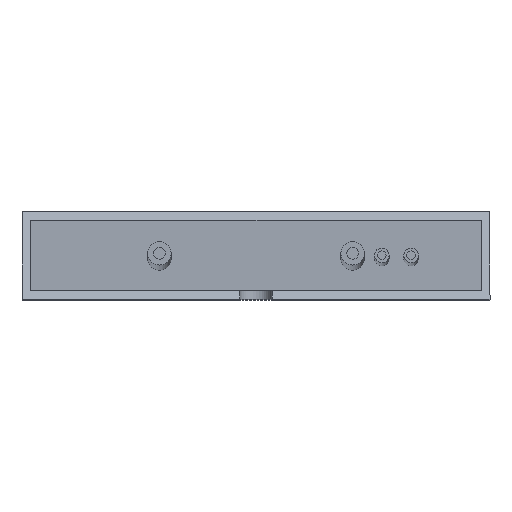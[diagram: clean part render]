
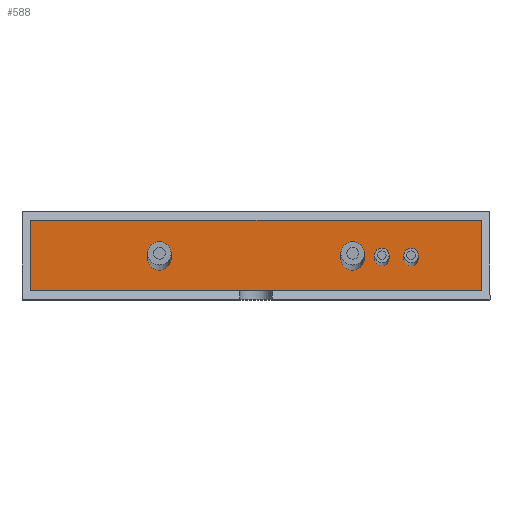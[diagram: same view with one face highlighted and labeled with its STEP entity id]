
A CAD part, top view. The second image highlights one B-rep face of the part: STEP entity #588.
In plain terms, the highlighted planar face has unit normal (0, 0, 1).
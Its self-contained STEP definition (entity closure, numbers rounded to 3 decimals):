
#16=LINE($,#891,#66);
#17=LINE($,#893,#67);
#18=LINE($,#895,#68);
#19=LINE($,#896,#69);
#66=VECTOR($,#740,77.);
#67=VECTOR($,#741,12.);
#68=VECTOR($,#742,77.);
#69=VECTOR($,#743,12.);
#121=PLANE($,#643);
#154=FACE_BOUND($,#219,.T.);
#155=FACE_BOUND($,#220,.T.);
#156=FACE_BOUND($,#221,.T.);
#157=FACE_BOUND($,#222,.T.);
#158=FACE_BOUND($,#223,.T.);
#219=EDGE_LOOP($,(#416));
#220=EDGE_LOOP($,(#417));
#221=EDGE_LOOP($,(#418));
#222=EDGE_LOOP($,(#419));
#223=EDGE_LOOP($,(#420,#421,#422,#423));
#245=CIRCLE($,#616,1.25);
#249=CIRCLE($,#624,1.25);
#253=CIRCLE($,#632,2.);
#257=CIRCLE($,#640,2.);
#265=VERTEX_POINT($,#840);
#269=VERTEX_POINT($,#852);
#273=VERTEX_POINT($,#864);
#277=VERTEX_POINT($,#876);
#282=VERTEX_POINT($,#889);
#283=VERTEX_POINT($,#890);
#284=VERTEX_POINT($,#892);
#285=VERTEX_POINT($,#894);
#317=EDGE_CURVE($,#265,#265,#245,.T.);
#321=EDGE_CURVE($,#269,#269,#249,.T.);
#325=EDGE_CURVE($,#273,#273,#253,.T.);
#329=EDGE_CURVE($,#277,#277,#257,.T.);
#334=EDGE_CURVE($,#282,#283,#16,.T.);
#335=EDGE_CURVE($,#284,#282,#17,.T.);
#336=EDGE_CURVE($,#285,#284,#18,.T.);
#337=EDGE_CURVE($,#283,#285,#19,.T.);
#416=ORIENTED_EDGE($,*,*,#317,.T.);
#417=ORIENTED_EDGE($,*,*,#321,.T.);
#418=ORIENTED_EDGE($,*,*,#325,.T.);
#419=ORIENTED_EDGE($,*,*,#329,.T.);
#420=ORIENTED_EDGE($,*,*,#334,.F.);
#421=ORIENTED_EDGE($,*,*,#335,.F.);
#422=ORIENTED_EDGE($,*,*,#336,.F.);
#423=ORIENTED_EDGE($,*,*,#337,.F.);
#588=ADVANCED_FACE($,(#154,#155,#156,#157,#158),#121,.T.);
#616=AXIS2_PLACEMENT_3D($,#841,#680,#681);
#624=AXIS2_PLACEMENT_3D($,#853,#696,#697);
#632=AXIS2_PLACEMENT_3D($,#865,#712,#713);
#640=AXIS2_PLACEMENT_3D($,#877,#728,#729);
#643=AXIS2_PLACEMENT_3D($,#888,#738,#739);
#680=DIRECTION('center_axis',(0.,0.,
-1.));
#681=DIRECTION('ref_axis',(-1.,0.,0.));
#696=DIRECTION('center_axis',(0.,0.,
-1.));
#697=DIRECTION('ref_axis',(-1.,0.,0.));
#712=DIRECTION('center_axis',(0.,0.,
-1.));
#713=DIRECTION('ref_axis',(-1.,0.,0.));
#728=DIRECTION('center_axis',(0.,0.,
-1.));
#729=DIRECTION('ref_axis',(-1.,0.,0.));
#738=DIRECTION('center_axis',(0.,0.,
1.));
#739=DIRECTION('ref_axis',(1.,0.,0.));
#740=DIRECTION($,(1.,0.,0.));
#741=DIRECTION($,(0.,1.,0.));
#742=DIRECTION($,(-1.,0.,0.));
#743=DIRECTION($,(0.,-1.,0.));
#840=CARTESIAN_POINT('',(29.172,3.909,70.773));
#841=CARTESIAN_POINT('Origin',(27.922,3.909,70.773));
#852=CARTESIAN_POINT('',(34.172,3.909,70.773));
#853=CARTESIAN_POINT('Origin',(32.922,3.909,70.773));
#864=CARTESIAN_POINT('',(-8.078,3.909,70.773));
#865=CARTESIAN_POINT('Origin',(-10.078,3.909,70.773));
#876=CARTESIAN_POINT('',(24.922,3.909,70.773));
#877=CARTESIAN_POINT('Origin',(22.922,3.909,70.773));
#888=CARTESIAN_POINT('Origin',(6.422,4.409,70.773));
#889=CARTESIAN_POINT('',(-32.078,10.409,70.773));
#890=CARTESIAN_POINT('',(44.922,10.409,70.773));
#891=CARTESIAN_POINT($,(26.422,10.409,70.773));
#892=CARTESIAN_POINT('',(-32.078,-1.591,70.773));
#893=CARTESIAN_POINT($,(-32.078,8.159,70.773));
#894=CARTESIAN_POINT('',(44.922,-1.591,70.773));
#895=CARTESIAN_POINT($,(-13.578,-1.591,70.773));
#896=CARTESIAN_POINT($,(44.922,0.659,70.773));
